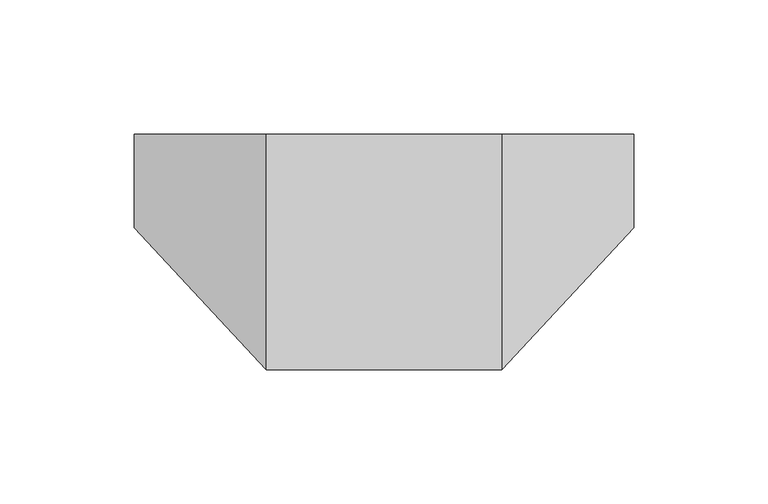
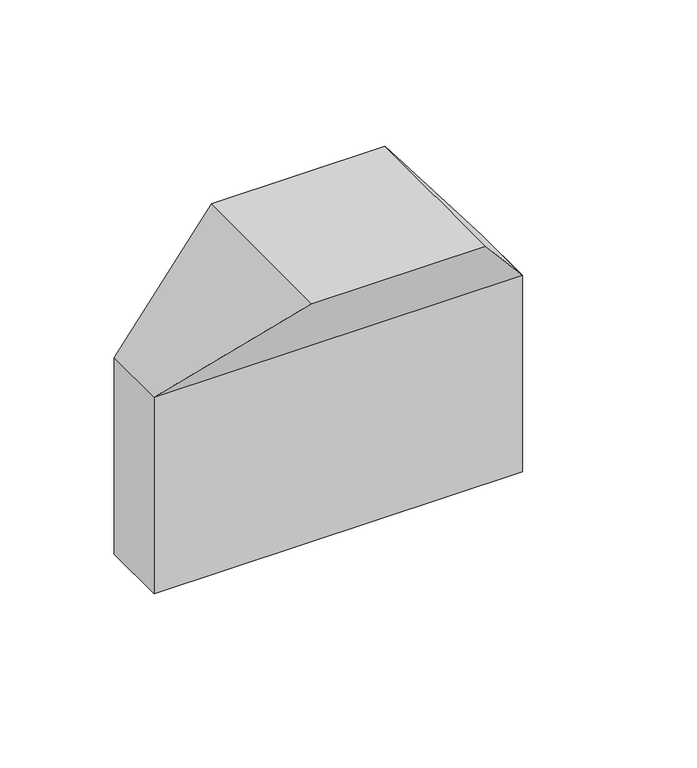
"""IFC4 building model written with IfcOpenShell, lengths in millimetres: duct fitting geometry, Отвод плоский - для перехода на кабель-канал шириной 80 мм - белый : Отвод плоский - для односекционных кабель-каналов DLP 35х105, 50х150 - ширина крышки 85 мм - белый."""

from ifc_helpers import new_model, si_unit, frame, origin, place, context, project, spatial, polyline, outline, extrude, faceted_brep, source, transform, mapped, element, save


def duct_fitting_5f6e9735(model_context):
    return source(origin(), model_context, "Body", "SolidModel", [
        faceted_brep([(44.0, 85.0, 65.0), (-44.0, 85.0, 65.0), (-44.0, -3.0, 65.0), (44.0, -3.0, 65.0), (93.2693175, 85.0, 0.0), (93.2693175, 50.0, 0.0), (-93.2693175, 50.0, 0.0), (-93.2693175, 85.0, 0.0)], [[[0, 1, 2, 3]], [[4, 5, 6, 7]], [[4, 7, 1, 0]], [[7, 6, 2, 1]], [[6, 5, 3, 2]], [[5, 4, 0, 3]]]),
        extrude(outline(polyline([(93.2693175, 85.0), (93.2693175, 50.0), (-93.2693175, 50.0), (-93.2693175, 85.0), (93.2693175, 85.0)])), frame((0.0, 0.0, -105.0), z_axis=(0.0, 0.0, 1.0), x_axis=(1.0, 0.0, 0.0)), (0.0, 0.0, 1.0), 105.0),
    ])


if __name__ == "__main__":
    model = new_model("IFC4")
    model_context = context("Model", 3, world=origin())
    ifc_project = project(units=[si_unit("LENGTHUNIT", "METRE", prefix="MILLI")], contexts=[model_context])
    site = spatial("IfcSite", under=ifc_project)
    building = spatial("IfcBuilding", under=site)
    placement = place(None, origin())
    duct_fitting_shape = duct_fitting_5f6e9735(model_context)
    element("IfcDuctFitting", 1, ObjectType="Отвод плоский - для перехода на кабель-канал шириной 80 мм - белый : Отвод плоский - для односекционных кабель-каналов DLP 35х105, 50х150 - ширина крышки 85 мм - белый", at=placement, inside=building, context=model_context, shape_type="MappedRepresentation", body=[
        mapped(duct_fitting_shape, transform((0.0, 0.0, 0.0), x_axis=(1.0, 0.0, 0.0), y_axis=(0.0, 1.0, 0.0), z_axis=(0.0, 0.0, 1.0))),
    ])
    save(model, "model.ifc")
